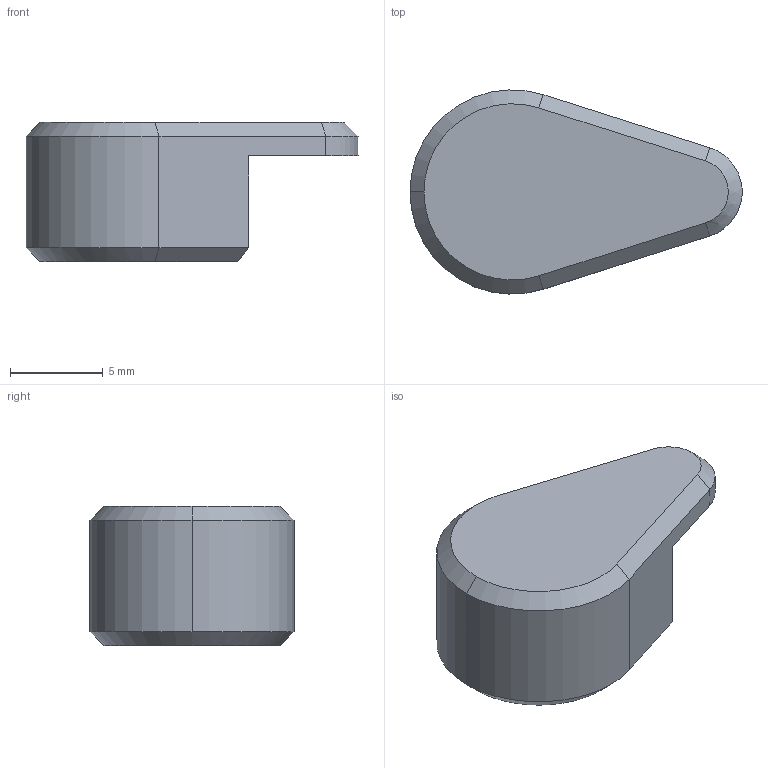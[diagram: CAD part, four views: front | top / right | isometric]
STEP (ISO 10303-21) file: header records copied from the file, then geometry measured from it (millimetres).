
FILE_DESCRIPTION (( 'STEP AP214' ), '1' );
FILE_NAME ('Upper Leg ArmorA1.STEP', '2023-12-26T21:06:22', ( '' ), ( '' ), 'SwSTEP 2.0', 'SolidWorks 2023', '' );
FILE_SCHEMA (( 'AUTOMOTIVE_DESIGN' ));
Length unit declared in the file: millimetre
Products named in the file (1): Upper Leg ArmorA1
Bounding box: 17.89 x 10.99 x 7.5 mm (x, y, z)
Volume: 380.7 mm3; surface area: 694 mm2
Topology: 1 solids, 1 shells, 36 faces, 80 edges, 47 vertices
Faces by surface type: plane 21, cylinder 7, cone 4, bspline 4
Entity records: 1158 total; most frequent: CARTESIAN_POINT 352, ORIENTED_EDGE 160, DIRECTION 159, EDGE_CURVE 80, LINE 55, VECTOR 55, AXIS2_PLACEMENT_3D 52, VERTEX_POINT 47
